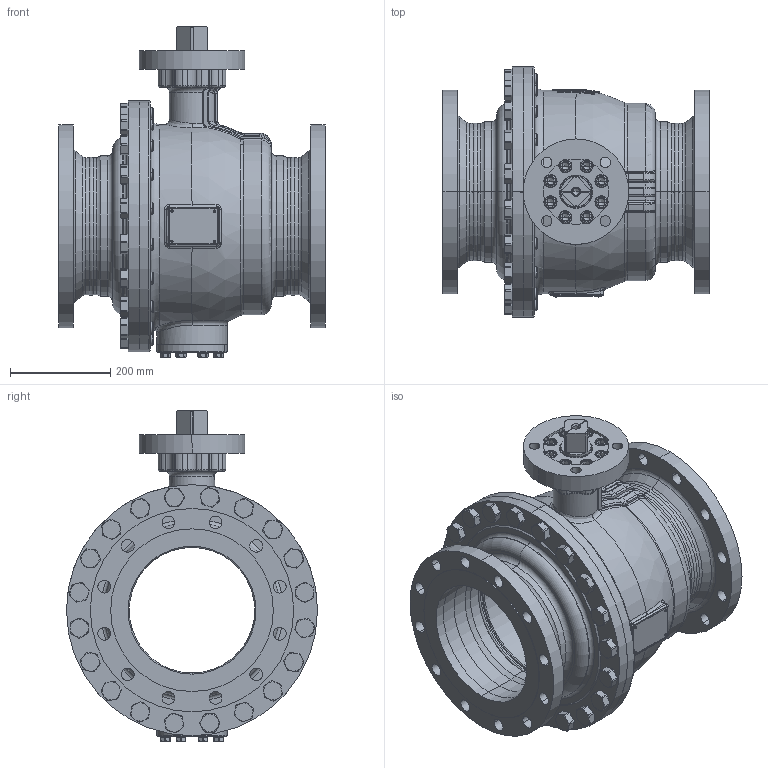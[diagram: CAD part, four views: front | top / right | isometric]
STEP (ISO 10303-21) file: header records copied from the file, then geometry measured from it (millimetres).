
FILE_DESCRIPTION((''),'2;1');
FILE_NAME('KHI-F_250_CL150-F16-4_SW0001','2026-02-05T14:07:24',('fischerkl'),('KLINGER'),'CREO PARAMETRIC BY PTC INC, 2023014','CREO PARAMETRIC BY PTC INC, 2023014','');
FILE_SCHEMA(('CONFIG_CONTROL_DESIGN'));
Products named in the file (1): KHI-F_250_CL150-F16-4_SW0001
Bounding box: 533 x 500 x 657.8 mm (x, y, z)
Volume: 22980672.7 mm3; surface area: 3418080.1 mm2
Topology: 1 solids, 4 shells, 3391 faces, 8645 edges, 5394 vertices
Faces by surface type: plane 1726, cylinder 804, cone 414, torus 308, bspline 97, sphere 42
Entity records: 139482 total; most frequent: CARTESIAN_POINT 58435, ORIENTED_EDGE 17214, DIRECTION 16698, EDGE_CURVE 8607, AXIS2_PLACEMENT_3D 6338, VERTEX_POINT 5394, VECTOR 4022, LINE 4022
